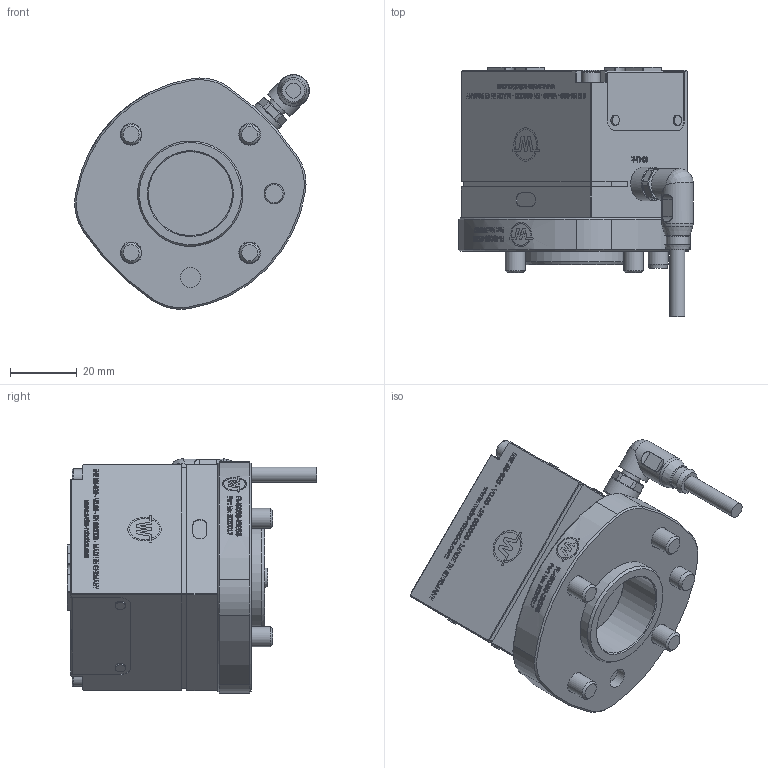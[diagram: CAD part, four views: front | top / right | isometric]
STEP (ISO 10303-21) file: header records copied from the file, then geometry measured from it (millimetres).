
FILE_DESCRIPTION((''),'2;1');
FILE_SCHEMA(('AUTOMOTIVE_DESIGN { 1 0 10303 214 1 1 1 1 }'));
Length unit declared in the file: millimetre
Products named in the file (10): FL-ISO50-IEG55 Zusammenbau.iam (Ansicht GRIPKIT-E1); IEG55-020_customer; IEG55_Tragstruktur; IEG55_Grundbacke; FL-ISO50-IEG55_CUSTOMER; Sensor-Aktor-Leitung PUR 4x0.25qmm pol. 5 m - Art.-Nr. 4020007; DIN EN ISO 4762 M3 x 45; DIN EN ISO 4762 M6 x 10; DIN EN ISO 2338 6 h8 x 8; ISO 8734 B 3 x 8 - B
Assembly tree (15 placements, depth 3):
  FL-ISO50-IEG55 Zusammenbau.iam (Ansicht GRIPKIT-E1)
    IEG55-020_customer
      IEG55_Tragstruktur
      IEG55_Grundbacke  x2
    FL-ISO50-IEG55_CUSTOMER
    Sensor-Aktor-Leitung PUR 4x0.25qmm pol. 5 m - Art.-Nr. 4020007
    DIN EN ISO 4762 M3 x 45  x2
    DIN EN ISO 4762 M6 x 10  x4
    DIN EN ISO 2338 6 h8 x 8
    ISO 8734 B 3 x 8 - B  x2
Bounding box: 70.09 x 74.62 x 70.07 mm (x, y, z)
Volume: 128872.3 mm3; surface area: 36705.5 mm2
Topology: 14 solids, 14 shells, 1825 faces, 4736 edges, 3122 vertices
Faces by surface type: bspline 906, plane 710, cylinder 141, cone 52, torus 10, sphere 6
Full cylindrical faces by diameter (mm): 1 x4, 1.2 x4, 3 x8, 4.5 x1, 5.5 x2, 5.7 x1, 5.8 x2, 6 x5, 6.5 x2, 6.7 x1, 6.9 x1, 7 x1, 8 x1, 9.5 x2, 10 x5, 31.5 x1
Entity records: 74786 total; most frequent: CARTESIAN_POINT 37786, ORIENTED_EDGE 8856, DIRECTION 4836, EDGE_CURVE 4428, VERTEX_POINT 2979, VECTOR 2292, LINE 2292, EDGE_LOOP 2011
